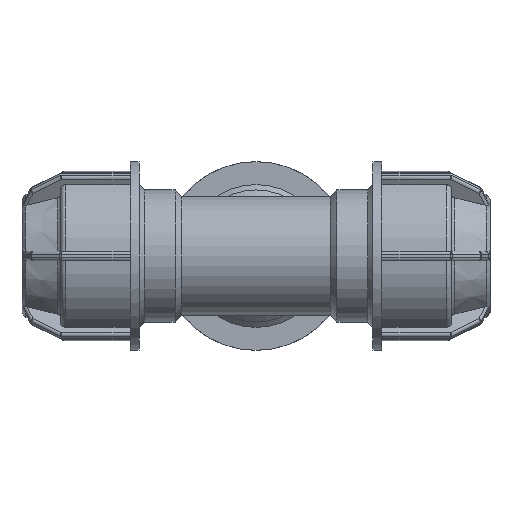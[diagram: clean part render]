
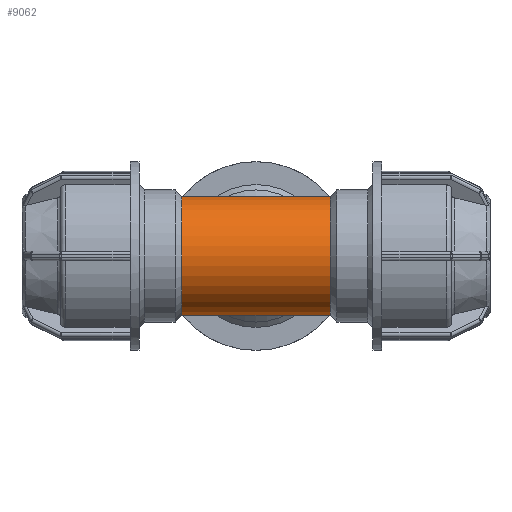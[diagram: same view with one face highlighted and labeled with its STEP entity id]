
A CAD part, front view. The second image highlights one B-rep face of the part: STEP entity #9062.
In plain terms, the highlighted cylindrical face has radius 15.75 mm (diameter 31.5 mm), a full revolution.
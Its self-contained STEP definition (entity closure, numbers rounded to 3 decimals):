
#15=ELLIPSE('',#9987,22.274,15.75);
#16=ELLIPSE('',#9988,22.274,15.75);
#1920=CYLINDRICAL_SURFACE('',#10008,15.75);
#2009=FACE_BOUND('',#3058,.T.);
#2010=FACE_BOUND('',#3059,.T.);
#2426=FACE_OUTER_BOUND('',#3057,.T.);
#3057=EDGE_LOOP('',(#7731));
#3058=EDGE_LOOP('',(#7732));
#3059=EDGE_LOOP('',(#7733,#7734));
#3271=CIRCLE('',#9264,15.75);
#3277=CIRCLE('',#9274,15.75);
#3775=VERTEX_POINT('',#13134);
#3781=VERTEX_POINT('',#13150);
#4300=VERTEX_POINT('',#16130);
#4301=VERTEX_POINT('',#16131);
#4571=EDGE_CURVE('',#3775,#3775,#3271,.T.);
#4577=EDGE_CURVE('',#3781,#3781,#3277,.T.);
#5467=EDGE_CURVE('',#4300,#4301,#15,.T.);
#5468=EDGE_CURVE('',#4300,#4301,#16,.T.);
#7731=ORIENTED_EDGE('',*,*,#4577,.F.);
#7732=ORIENTED_EDGE('',*,*,#4571,.F.);
#7733=ORIENTED_EDGE('',*,*,#5468,.T.);
#7734=ORIENTED_EDGE('',*,*,#5467,.F.);
#9062=ADVANCED_FACE('',(#2426,#2009,#2010),#1920,.T.);
#9264=AXIS2_PLACEMENT_3D('',#13135,#10376,#10377);
#9274=AXIS2_PLACEMENT_3D('',#13151,#10396,#10397);
#9987=AXIS2_PLACEMENT_3D('',#16132,#12182,#12183);
#9988=AXIS2_PLACEMENT_3D('',#16133,#12184,#12185);
#10008=AXIS2_PLACEMENT_3D('',#16161,#12224,#12225);
#10376=DIRECTION('center_axis',(1.,0.,0.));
#10377=DIRECTION('ref_axis',(0.,0.,-1.));
#10396=DIRECTION('center_axis',(-1.,0.,0.));
#10397=DIRECTION('ref_axis',(0.,0.,-1.));
#12182=DIRECTION('center_axis',(0.707,0.707,0.));
#12183=DIRECTION('ref_axis',(0.707,-0.707,0.));
#12184=DIRECTION('center_axis',(0.707,-0.707,0.));
#12185=DIRECTION('ref_axis',(-0.707,-0.707,0.));
#12224=DIRECTION('center_axis',(1.,0.,0.));
#12225=DIRECTION('ref_axis',(0.,1.,0.));
#13134=CARTESIAN_POINT('',(19.7,15.75,0.));
#13135=CARTESIAN_POINT('Origin',(19.7,0.,0.));
#13150=CARTESIAN_POINT('',(-19.7,-15.75,0.));
#13151=CARTESIAN_POINT('Origin',(-19.7,0.,0.));
#16130=CARTESIAN_POINT('',(0.,0.,
-15.75));
#16131=CARTESIAN_POINT('',(0.,0.,
15.75));
#16132=CARTESIAN_POINT('Origin',(0.,0.,0.));
#16133=CARTESIAN_POINT('Origin',(0.,0.,
0.));
#16161=CARTESIAN_POINT('Origin',(9.85,0.,0.));
